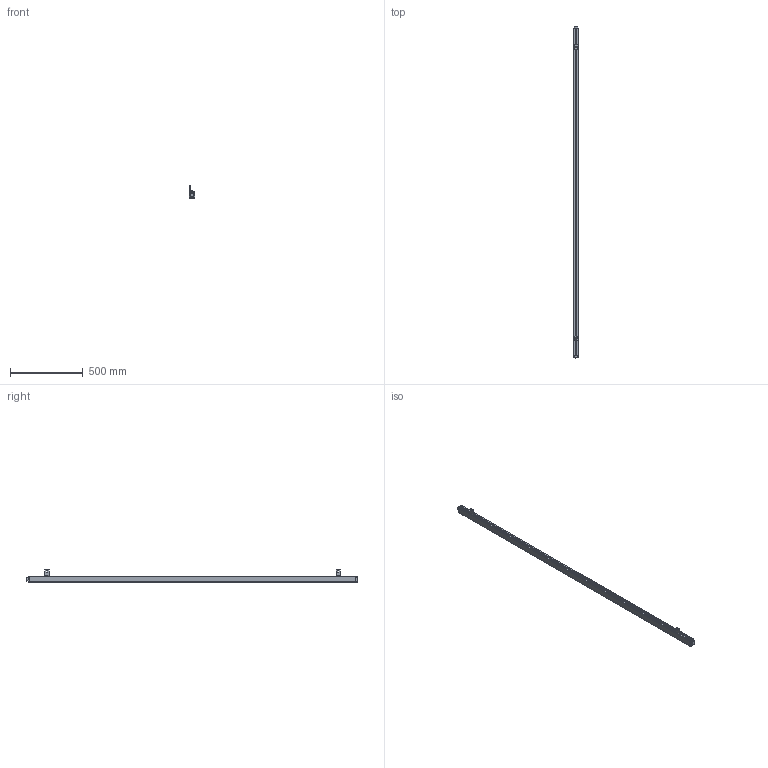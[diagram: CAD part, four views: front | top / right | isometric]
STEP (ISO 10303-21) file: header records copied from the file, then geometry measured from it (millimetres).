
FILE_DESCRIPTION((''),'2;1');
FILE_NAME('ESCL-00_ASM','2021-07-17T10:40:04',('18720616900'),(''),'CREO PARAMETRIC BY PTC INC, 2019010','CREO PARAMETRIC BY PTC INC, 2019010','');
FILE_SCHEMA(('CONFIG_CONTROL_DESIGN'));
Products named in the file (12): ESCL-00; ESCL-3-SOLID1000; ESCL-4-SOLID1000; HKCT1_-4-SOLID1; L10001; M6-8--0001; M6-1--00; M6-1-00; 00; M6-80001_ASM; L1--0001_ASM; ESCL-00_ASM
Assembly tree (12 placements, depth 4):
  ESCL-00_ASM
    ESCL-00
    ESCL-3-SOLID1000
    ESCL-4-SOLID1000
    HKCT1_-4-SOLID1
    L1--0001_ASM  x2
      L10001
      M6-80001_ASM
        M6-8--0001
        M6-1--00
        M6-1-00
        00
Bounding box: 36.1 x 2285.1 x 91.11 mm (x, y, z)
Volume: 3269945.2 mm3; surface area: 469064.4 mm2
Topology: 14 solids, 14 shells, 625 faces, 1645 edges, 1070 vertices
Faces by surface type: plane 226, cylinder 208, cone 78, bspline 66, torus 47
Entity records: 76177 total; most frequent: CARTESIAN_POINT 63991, ORIENTED_EDGE 2664, DIRECTION 2275, EDGE_CURVE 1332, VERTEX_POINT 872, AXIS2_PLACEMENT_3D 816, VECTOR 643, LINE 643
